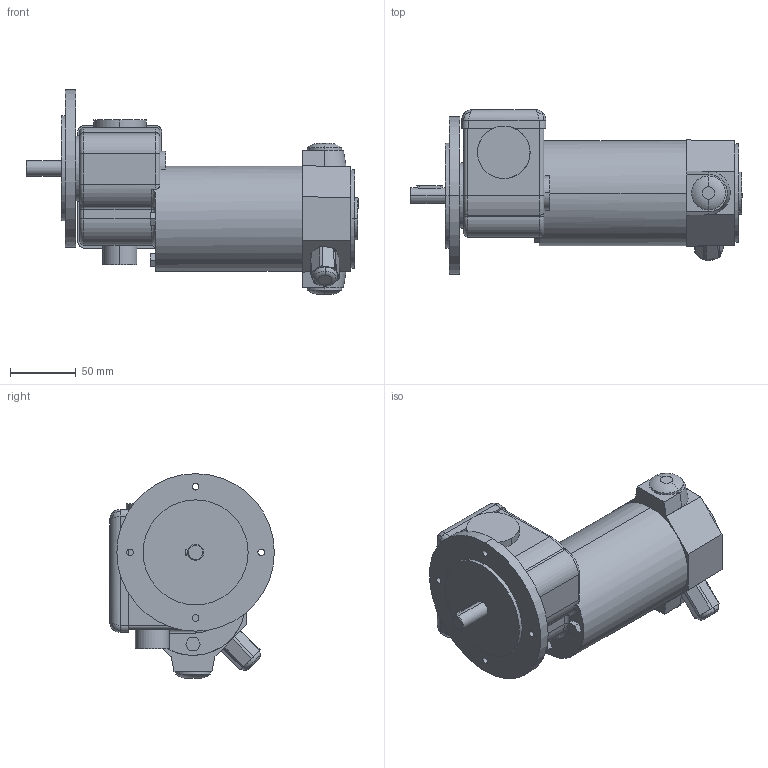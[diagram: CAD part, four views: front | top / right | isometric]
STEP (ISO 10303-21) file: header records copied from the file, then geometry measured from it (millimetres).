
FILE_DESCRIPTION(('OneSpaceDesigner STEP Export'),'2;1');
FILE_NAME('EPG12_GF23-10.stp','2008-07-16T13:00:46',(''),(''),'OneSpace Designer STEP processor (Jan. 2003) for AP214(CD)(Solid Model)','OneSpace Designer 12.01D 09-Jul-2004 (C) CoCreate Software GmbH','');
FILE_SCHEMA(('AUTOMOTIVE_DESIGN_CC2 {1 2 10303 214 -1 1 5 1}'));
Length unit declared in the file: millimetre
Products named in the file (2): EPG12_GF23-10
Assembly tree (1 placements, depth 2):
  EPG12_GF23-10
    EPG12_GF23-10
Bounding box: 253 x 125.5 x 156 mm (x, y, z)
Volume: 1424560.2 mm3; surface area: 109896.5 mm2
Topology: 1 solids, 1 shells, 167 faces, 413 edges, 262 vertices
Faces by surface type: cylinder 65, plane 65, torus 20, bspline 14, cone 2, sphere 1
Entity records: 8598 total; most frequent: CARTESIAN_POINT 4810, ORIENTED_EDGE 824, DIRECTION 684, EDGE_CURVE 412, VERTEX_POINT 262, AXIS2_PLACEMENT_3D 241, VECTOR 202, LINE 202
